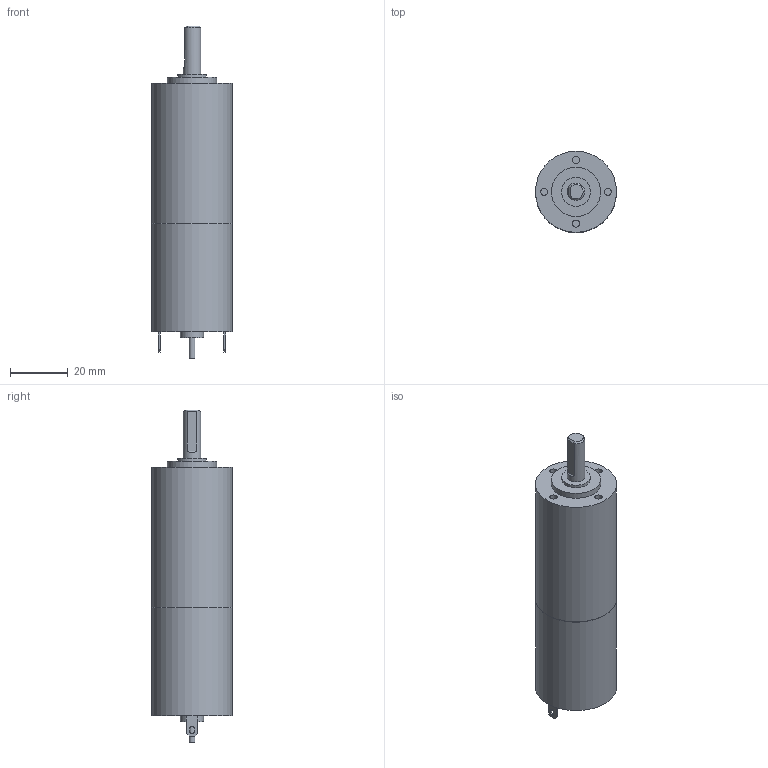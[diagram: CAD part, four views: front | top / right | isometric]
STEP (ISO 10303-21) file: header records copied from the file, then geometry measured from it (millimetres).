
FILE_DESCRIPTION(/* description */ ('Alibre Inc.'),/* implementation_level */ '2;1');
FILE_NAME(/* name */ 'export0',/* time_stamp */ '2013-08-07T13:53:08-06:00',/* author */ (''),/* organization */ (''),/* preprocessor_version */ 'ST-DEVELOPER v14',/* originating_system */ 'Alibre',/* authorisation */ '');
FILE_SCHEMA (('ALIBRE_SCHEMA','CONFIG_CONTROL_DESIGN'));
Length unit declared in the file: centimetre
Products named in the file (1): ID_1
Bounding box: 28 x 28 x 114.7 mm (x, y, z)
Volume: 53977.1 mm3; surface area: 9648.1 mm2
Topology: 1 solids, 1 shells, 50 faces, 108 edges, 71 vertices
Faces by surface type: plane 32, cylinder 15, revolution 2, cone 1
Full cylindrical faces by diameter (mm): 2 x1, 2.459 x4, 6 x1, 8 x1, 10 x1, 17 x1, 28 x2
Entity records: 2845 total; most frequent: CARTESIAN_POINT 380, DIRECTION 241, ORIENTED_EDGE 188, PERSISTANTTOPOLOGYATTRIBUTE 133, AXIS2_PLACEMENT_3D 103, CONSTRAINTPAIRUV 102, VECTOR 96, EDGE_CURVE 94
